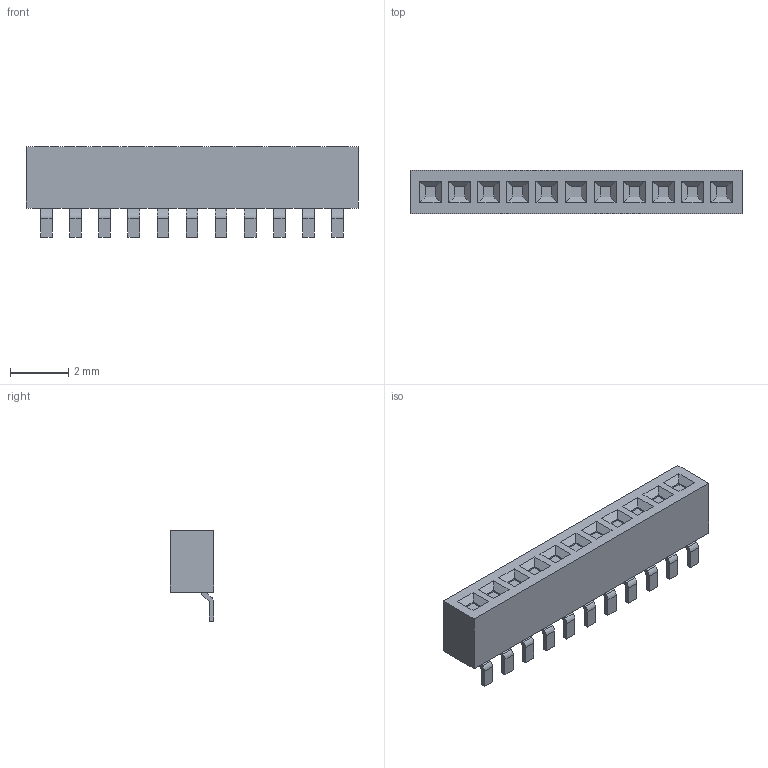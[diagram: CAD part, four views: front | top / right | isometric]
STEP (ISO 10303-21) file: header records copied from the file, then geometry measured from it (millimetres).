
FILE_DESCRIPTION (( 'STEP AP203' ), '1' );
FILE_NAME ('PM100-1-11-WS-2.1-XX(L3.1) (1.00单排 卧贴 排母 塑高2.1-HCTL).STEP', '2025-07-24T02:47:15', ( '' ), ( '' ), 'SwSTEP 2.0', 'SolidWorks 2022', '' );
FILE_SCHEMA (( 'CONFIG_CONTROL_DESIGN' ));
Length unit declared in the file: millimetre
Products named in the file (1): PM100-1-11-WS-2.1-XX(L3.1) (1.00单排 卧贴 排母 塑高2.1-HCTL)
Bounding box: 11.4 x 1.5 x 3.1 mm (x, y, z)
Volume: 34.6 mm3; surface area: 112.6 mm2
Topology: 1 solids, 1 shells, 303 faces, 760 edges, 492 vertices
Faces by surface type: plane 259, cylinder 44
Entity records: 8967 total; most frequent: CARTESIAN_POINT 1556, ORIENTED_EDGE 1520, DIRECTION 1456, EDGE_CURVE 760, LINE 672, VECTOR 672, VERTEX_POINT 492, AXIS2_PLACEMENT_3D 392
